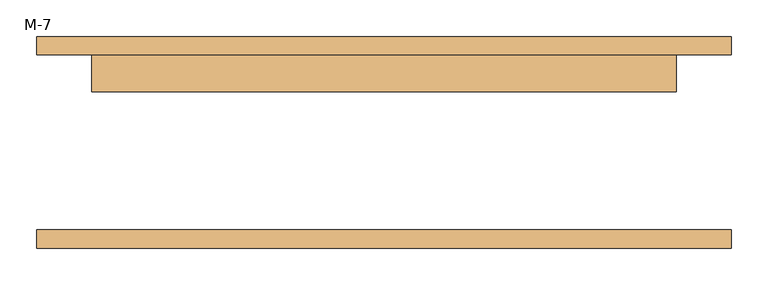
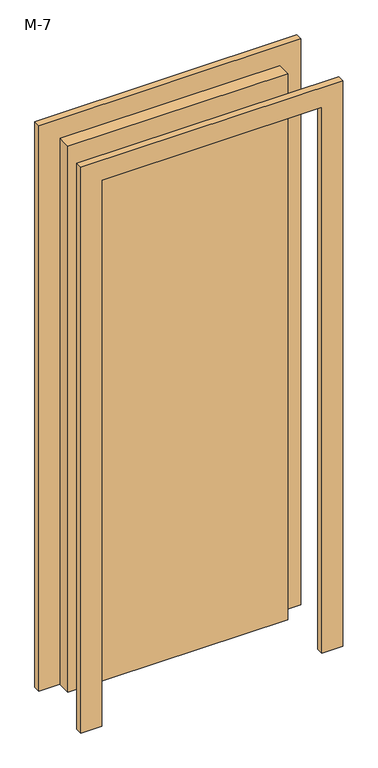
"""IFC4 building model written with IfcOpenShell, lengths in millimetres: door geometry, 单扇 - 与墙齐 : M-7."""

import ifcopenshell
import ifcopenshell.guid

model = None  # the IFC model being written
_history = None  # IfcOwnerHistory: only IFC2X3 demands one
_inside = {}  # id of a spatial element -> (the spatial element, [elements in it])
_under = {}  # id of a project, library or spatial element -> (it, [spatial elements below it])
_declared = {}  # id of a project -> (the project, [libraries it declares])
_typed = {}  # id of a type object -> (the type object, [elements of that type])
_made_of = {}  # id of a material, layer set ... -> (it, [elements and type objects made of it])


def new_model(schema):
    """Start an empty IFC model of exactly this schema.

    Asked for "IFC4X3", IfcOpenShell would pick the latest addendum, in which some entities
    have other attributes; the version numbers below select the first issue.
    IFC2X3 requires an IfcOwnerHistory on every rooted entity: one is made here for all.
    """
    global model, _history
    if schema == "IFC4X3":
        model = ifcopenshell.file(schema_version=(4, 3, 0, 0))
    else:
        model = ifcopenshell.file(schema=schema)
    _inside.clear()
    _under.clear()
    _declared.clear()
    _typed.clear()
    _made_of.clear()
    _history = None
    if model.schema == "IFC2X3":
        org = make("IfcOrganization", Name="unknown")
        user = make(
            "IfcPersonAndOrganization",
            ThePerson=make("IfcPerson", FamilyName="unknown"),
            TheOrganization=org,
        )
        app = make(
            "IfcApplication",
            ApplicationDeveloper=org,
            Version="unknown",
            ApplicationFullName="unknown",
            ApplicationIdentifier="unknown",
        )
        _history = make(
            "IfcOwnerHistory",
            OwningUser=user,
            OwningApplication=app,
            ChangeAction="ADDED",
            CreationDate=0,
        )
    return model


def make(cls, **values):
    """One entity of the class cls with the attributes given. An attribute that is None is left unset."""
    return model.create_entity(
        cls, **{name: value for name, value in values.items() if value is not None}
    )


def rooted(cls, **values):
    """An entity with a GlobalId (a new one), such as an element, a storey or a relation."""
    return make(cls, GlobalId=ifcopenshell.guid.new(), OwnerHistory=_history, **values)


def si_unit(unit_type, name, prefix=None):
    """IfcSIUnit, for example si_unit("LENGTHUNIT", "METRE", prefix="MILLI")."""
    return make("IfcSIUnit", UnitType=unit_type, Prefix=prefix, Name=name)


def assignment(units):
    """IfcUnitAssignment: the units of a project."""
    return None if units is None else make("IfcUnitAssignment", Units=units)


def point(xyz):
    """IfcCartesianPoint."""
    return None if xyz is None else make("IfcCartesianPoint", Coordinates=xyz)


def direction(xyz):
    """IfcDirection."""
    return None if xyz is None else make("IfcDirection", DirectionRatios=xyz)


def frame(location, z_axis=None, x_axis=None):
    """IfcAxis2Placement3D, a coordinate frame: its origin and axes. An axis left out is left unset."""
    return make(
        "IfcAxis2Placement3D",
        Location=point(location),
        Axis=direction(z_axis),
        RefDirection=direction(x_axis),
    )


def origin():
    """The frame at (0, 0, 0) with its axes left unset."""
    return frame((0.0, 0.0, 0.0))


def origin_with_axes():
    """The frame at (0, 0, 0) with the z axis (0, 0, 1) and the x axis (1, 0, 0) written out."""
    return frame((0.0, 0.0, 0.0), z_axis=(0.0, 0.0, 1.0), x_axis=(1.0, 0.0, 0.0))


def place(relative_to, where):
    """IfcLocalPlacement: puts the frame where relative to a parent placement (None: the world)."""
    return make(
        "IfcLocalPlacement", PlacementRelTo=relative_to, RelativePlacement=where
    )


def context(
    kind, dimensions, precision=None, world=None, true_north=None, identifier=None
):
    """IfcGeometricRepresentationContext, for example the 3D "Model" context."""
    return make(
        "IfcGeometricRepresentationContext",
        ContextIdentifier=identifier,
        ContextType=kind,
        CoordinateSpaceDimension=dimensions,
        Precision=precision,
        WorldCoordinateSystem=world,
        TrueNorth=true_north,
    )


def project(units=None, contexts=None):
    """IfcProject with its units and contexts."""
    return rooted(
        "IfcProject",
        Name="project",
        RepresentationContexts=contexts,
        UnitsInContext=assignment(units),
    )


def spatial(cls, under=None, at=None, **own):
    """A site, building, storey or space (cls), placed at a placement, below another one or the project."""
    s = rooted(cls, ObjectPlacement=at, **own)
    if under is not None:
        _under.setdefault(under.id(), (under, []))[1].append(s)
    return s


def polyline(points):
    """IfcPolyline through the points."""
    return make("IfcPolyline", Points=[point(p) for p in points])


def outline(outer, holes=None, kind="AREA"):
    """IfcArbitraryClosedProfileDef: a profile drawn as a closed curve; with holes, ...WithVoids."""
    if holes is None:
        return make("IfcArbitraryClosedProfileDef", ProfileType=kind, OuterCurve=outer)
    return make(
        "IfcArbitraryProfileDefWithVoids",
        ProfileType=kind,
        OuterCurve=outer,
        InnerCurves=holes,
    )


def extrude(swept, where, along, depth):
    """IfcExtrudedAreaSolid: the profile swept, set in the frame where, extruded along a direction by depth."""
    return make(
        "IfcExtrudedAreaSolid",
        SweptArea=swept,
        Position=where,
        ExtrudedDirection=direction(along),
        Depth=depth,
    )


def shape(context_of_items, identifier, shape_type, items):
    """IfcShapeRepresentation: the items that make up one representation, for example the "Body"."""
    return make(
        "IfcShapeRepresentation",
        ContextOfItems=context_of_items,
        RepresentationIdentifier=identifier,
        RepresentationType=shape_type,
        Items=items,
    )


def source(mapping_origin, context_of_items, identifier, shape_type, items):
    """IfcRepresentationMap: a shape defined once, which mapped items show again and again."""
    return make(
        "IfcRepresentationMap",
        MappingOrigin=mapping_origin,
        MappedRepresentation=shape(context_of_items, identifier, shape_type, items),
    )


def transform(
    local_origin,
    x_axis=None,
    y_axis=None,
    z_axis=None,
    scale=None,
    scale2=None,
    scale3=None,
    uniform=True,
):
    """IfcCartesianTransformationOperator3D, or its non-uniform kind. x_axis, y_axis, z_axis: its Axis1, 2, 3."""
    if uniform:
        return make(
            "IfcCartesianTransformationOperator3D",
            Axis1=direction(x_axis),
            Axis2=direction(y_axis),
            LocalOrigin=point(local_origin),
            Scale=scale,
            Axis3=direction(z_axis),
        )
    return make(
        "IfcCartesianTransformationOperator3DnonUniform",
        Axis1=direction(x_axis),
        Axis2=direction(y_axis),
        LocalOrigin=point(local_origin),
        Scale=scale,
        Axis3=direction(z_axis),
        Scale2=scale2,
        Scale3=scale3,
    )


def mapped(mapping_source, mapping_target):
    """IfcMappedItem: shows the shape of a source again, moved by a transform."""
    return make(
        "IfcMappedItem", MappingSource=mapping_source, MappingTarget=mapping_target
    )


def made_of(thing, what):
    """Note that an element or type object is made of a material, layer set ...; save() writes the relation."""
    if what is not None:
        _made_of.setdefault(what.id(), (what, []))[1].append(thing)
    return thing


def element(
    cls,
    number,
    at=None,
    inside=None,
    cuts=None,
    type_object=None,
    material=None,
    context=None,
    identifier="Body",
    shape_type=None,
    held_by="IfcProductDefinitionShape",
    body=None,
    shapes=None,
    **own,
):
    """One element of the class cls, such as IfcWall. Its Tag is "e" and its number.

    at: its placement. inside: the storey or other place that contains it. cuts: it is an
    opening in that element (IfcRelVoidsElement). A single representation is given by context,
    identifier, shape_type and body (its items); several are given by shapes. held_by: the class
    of the entity that holds the representations. save() writes the other relations.
    """
    e = rooted(cls, Tag="e%d" % number, ObjectPlacement=at, **own)
    if body is not None:
        shapes = [shape(context, identifier, shape_type, body)]
    if shapes is not None:
        e.Representation = make(held_by, Representations=shapes)
    if inside is not None:
        _inside.setdefault(inside.id(), (inside, []))[1].append(e)
    if cuts is not None:
        rooted(
            "IfcRelVoidsElement", RelatingBuildingElement=cuts, RelatedOpeningElement=e
        )
    if type_object is not None:
        _typed.setdefault(type_object.id(), (type_object, []))[1].append(e)
    return made_of(e, material)


def aggregate(whole, parts):
    """IfcRelAggregates: a whole, such as a stair, and the parts it consists of."""
    return rooted("IfcRelAggregates", RelatingObject=whole, RelatedObjects=parts)


def save(model, path):
    """Write the relations noted so far, then the file.

    IfcRelAggregates (storeys below a building ...), IfcRelContainedInSpatialStructure (elements
    in a storey), IfcRelDefinesByType, IfcRelAssociatesMaterial and IfcRelDeclares: one each for
    every whole, place, type object, material and project.
    """
    for whole, parts in _under.values():
        aggregate(whole, parts)
    for where, things in _inside.values():
        rooted(
            "IfcRelContainedInSpatialStructure",
            RelatedElements=things,
            RelatingStructure=where,
        )
    for kind, things in _typed.values():
        rooted("IfcRelDefinesByType", RelatedObjects=things, RelatingType=kind)
    for what, things in _made_of.values():
        rooted("IfcRelAssociatesMaterial", RelatedObjects=things, RelatingMaterial=what)
    for by, libraries in _declared.values():
        rooted("IfcRelDeclares", RelatingContext=by, RelatedDefinitions=libraries)
    model.write(path)


def m_7_583f3ef9(model_context):
    return source(origin(), model_context, "Body", "SweptSolid", [
        extrude(outline(polyline([(2176.0, -476.0), (0.0, -476.0), (0.0, -400.0), (2100.0, -400.0), (2100.0, 400.0), (0.0, 400.0), (0.0, 476.0), (2176.0, 476.0), (2176.0, -476.0)])), frame((0.0, 120.0, 0.0), z_axis=(0.0, 1.0, 0.0), x_axis=(0.0, 0.0, 1.0)), (0.0, 0.0, 1.0), 25.0),
        extrude(outline(polyline([(2176.0, 476.0), (2176.0, -476.0), (0.0, -476.0), (0.0, -400.0), (2100.0, -400.0), (2100.0, 400.0), (0.0, 400.0), (0.0, 476.0), (2176.0, 476.0)])), frame((0.0, -145.0, 0.0), z_axis=(0.0, 1.0, 0.0), x_axis=(0.0, 0.0, 1.0)), (0.0, 0.0, 1.0), 25.0),
        extrude(outline(polyline([(400.0, 69.0), (-400.0, 69.0), (-400.0, 120.0), (400.0, 120.0), (400.0, 69.0)])), origin_with_axes(), (0.0, 0.0, 1.0), 2100.0),
    ])


if __name__ == "__main__":
    model = new_model("IFC4")
    model_context = context("Model", 3, world=origin())
    ifc_project = project(units=[si_unit("LENGTHUNIT", "METRE", prefix="MILLI")], contexts=[model_context])
    site = spatial("IfcSite", under=ifc_project)
    building = spatial("IfcBuilding", under=site)
    placement = place(None, origin())
    m_7_shape = m_7_583f3ef9(model_context)
    element("IfcDoor", 1, ObjectType="单扇 - 与墙齐 : M-7", at=placement, inside=building, context=model_context, shape_type="MappedRepresentation", body=[
        mapped(m_7_shape, transform((0.0, 0.0, 0.0), x_axis=(1.0, 0.0, 0.0), y_axis=(0.0, 1.0, 0.0), z_axis=(0.0, 0.0, 1.0))),
    ])
    save(model, "model.ifc")
